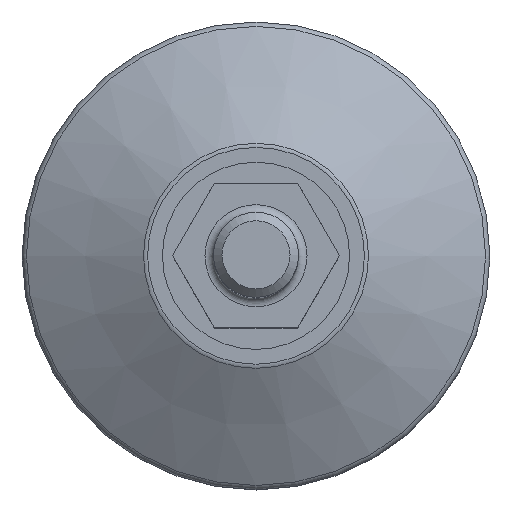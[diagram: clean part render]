
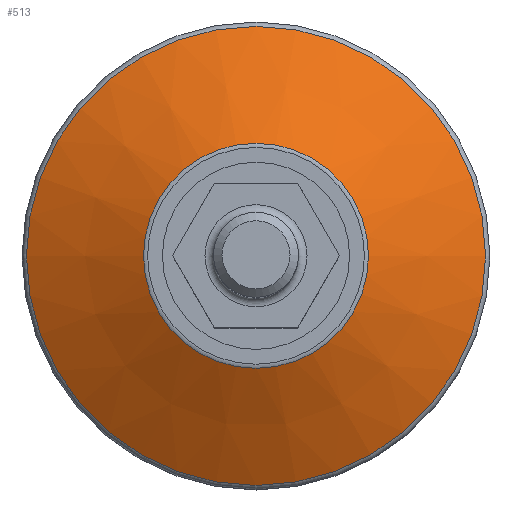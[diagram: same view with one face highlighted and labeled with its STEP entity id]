
A CAD part, top view. The second image highlights one B-rep face of the part: STEP entity #513.
In plain terms, the highlighted conical face has half-angle 61.113 degrees and reference radius 20.104 mm.
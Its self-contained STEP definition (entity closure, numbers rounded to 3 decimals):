
#83=CONICAL_SURFACE('',#578,20.104,61.113);
#105=FACE_BOUND('',#190,.T.);
#134=FACE_OUTER_BOUND('',#189,.T.);
#189=EDGE_LOOP('',(#402));
#190=EDGE_LOOP('',(#403));
#238=CIRCLE('',#550,13.226);
#254=CIRCLE('',#577,26.983);
#273=VERTEX_POINT('',#800);
#289=VERTEX_POINT('',#843);
#320=EDGE_CURVE('',#273,#273,#238,.T.);
#336=EDGE_CURVE('',#289,#289,#254,.T.);
#402=ORIENTED_EDGE('',*,*,#320,.T.);
#403=ORIENTED_EDGE('',*,*,#336,.F.);
#513=ADVANCED_FACE('',(#134,#105),#83,.T.);
#550=AXIS2_PLACEMENT_3D('',#801,#632,#633);
#577=AXIS2_PLACEMENT_3D('',#844,#686,#687);
#578=AXIS2_PLACEMENT_3D('',#845,#688,#689);
#632=DIRECTION('center_axis',(0.,0.,-1.));
#633=DIRECTION('ref_axis',(-1.,0.,0.));
#686=DIRECTION('center_axis',(0.,0.,-1.));
#687=DIRECTION('ref_axis',(-1.,0.,0.));
#688=DIRECTION('center_axis',(0.,0.,-1.));
#689=DIRECTION('ref_axis',(-1.,0.,0.));
#800=CARTESIAN_POINT('',(13.226,0.,8.876));
#801=CARTESIAN_POINT('Origin',(0.,0.,8.876));
#843=CARTESIAN_POINT('',(26.983,0.,1.285));
#844=CARTESIAN_POINT('Origin',(0.,0.,1.285));
#845=CARTESIAN_POINT('Origin',(0.,0.,5.08));
